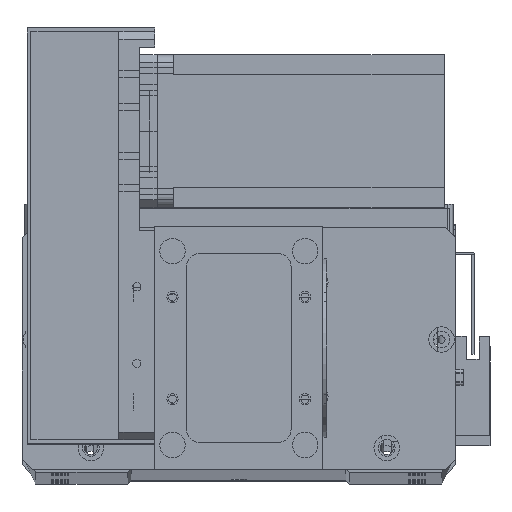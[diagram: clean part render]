
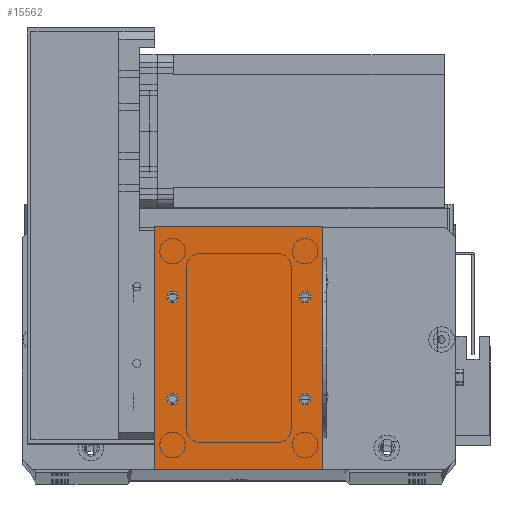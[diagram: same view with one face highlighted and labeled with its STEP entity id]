
A CAD part, top view. The second image highlights one B-rep face of the part: STEP entity #15562.
In plain terms, the highlighted planar face has unit normal (0, 0, 1).
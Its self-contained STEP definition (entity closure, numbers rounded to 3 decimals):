
#606 = DIRECTION ( 'NONE',  ( 0., 0., 1. ) ) ;
#1139 = LINE ( 'NONE', #1653, #7330 ) ;
#1398 = ORIENTED_EDGE ( 'NONE', *, *, #26550, .T. ) ;
#1653 = CARTESIAN_POINT ( 'NONE',  ( 0., 0., 2. ) ) ;
#2895 = AXIS2_PLACEMENT_3D ( 'NONE', #28897, #13147, #31559 ) ;
#2986 = EDGE_LOOP ( 'NONE', ( #22783, #12756 ) ) ;
#3214 = CARTESIAN_POINT ( 'NONE',  ( 0., 0., 2. ) ) ;
#3251 = FACE_BOUND ( 'NONE', #6437, .T. ) ;
#3397 = DIRECTION ( 'NONE',  ( -1., 0., 0. ) ) ;
#3508 = DIRECTION ( 'NONE',  ( 0., 0., 1. ) ) ;
#3669 = CARTESIAN_POINT ( 'NONE',  ( 56.75, 67.5, 2. ) ) ;
#3730 = ORIENTED_EDGE ( 'NONE', *, *, #10575, .F. ) ;
#3878 = ORIENTED_EDGE ( 'NONE', *, *, #26043, .F. ) ;
#4406 = CIRCLE ( 'NONE', #20729, 2.25 ) ;
#5197 = VECTOR ( 'NONE', #3397, 1000. ) ;
#5307 = EDGE_CURVE ( 'NONE', #29901, #8971, #32133, .T. ) ;
#5310 = AXIS2_PLACEMENT_3D ( 'NONE', #3214, #29609, #13860 ) ;
#5589 = CARTESIAN_POINT ( 'NONE',  ( 59., 67.5, 2. ) ) ;
#6334 = CIRCLE ( 'NONE', #2895, 2.25 ) ;
#6437 = EDGE_LOOP ( 'NONE', ( #33849, #15026 ) ) ;
#7245 = VERTEX_POINT ( 'NONE', #3669 ) ;
#7330 = VECTOR ( 'NONE', #9651, 1000. ) ;
#7938 = CARTESIAN_POINT ( 'NONE',  ( 7., 67.5, 2. ) ) ;
#8012 = VECTOR ( 'NONE', #24293, 1000. ) ;
#8244 = DIRECTION ( 'NONE',  ( 1., 0., 0. ) ) ;
#8971 = VERTEX_POINT ( 'NONE', #19518 ) ;
#9236 = CARTESIAN_POINT ( 'NONE',  ( 66., 0., 2. ) ) ;
#9471 = ORIENTED_EDGE ( 'NONE', *, *, #25773, .T. ) ;
#9475 = FACE_OUTER_BOUND ( 'NONE', #10811, .T. ) ;
#9651 = DIRECTION ( 'NONE',  ( 1., 0., 0. ) ) ;
#9693 = VERTEX_POINT ( 'NONE', #17287 ) ;
#10287 = FACE_BOUND ( 'NONE', #20868, .T. ) ;
#10297 = CARTESIAN_POINT ( 'NONE',  ( 7., 27.5, 2. ) ) ;
#10575 = EDGE_CURVE ( 'NONE', #20424, #21976, #32341, .T. ) ;
#10608 = DIRECTION ( 'NONE',  ( 1., 0., 0. ) ) ;
#10811 = EDGE_LOOP ( 'NONE', ( #14987, #9471, #13054, #1398 ) ) ;
#11130 = FACE_BOUND ( 'NONE', #18607, .T. ) ;
#11154 = VECTOR ( 'NONE', #27602, 1000. ) ;
#11181 = EDGE_CURVE ( 'NONE', #23141, #25673, #6334, .T. ) ;
#11940 = AXIS2_PLACEMENT_3D ( 'NONE', #5589, #24001, #8244 ) ;
#12636 = CARTESIAN_POINT ( 'NONE',  ( 61.25, 67.5, 2. ) ) ;
#12756 = ORIENTED_EDGE ( 'NONE', *, *, #11181, .F. ) ;
#12836 = DIRECTION ( 'NONE',  ( 0., 0., 1. ) ) ;
#12940 = DIRECTION ( 'NONE',  ( 1., 0., 0. ) ) ;
#13054 = ORIENTED_EDGE ( 'NONE', *, *, #29262, .T. ) ;
#13147 = DIRECTION ( 'NONE',  ( 0., 0., 1. ) ) ;
#13501 = CARTESIAN_POINT ( 'NONE',  ( 7., 27.5, 2. ) ) ;
#13860 = DIRECTION ( 'NONE',  ( -1., 0., 0. ) ) ;
#14161 = EDGE_CURVE ( 'NONE', #25673, #23141, #18958, .T. ) ;
#14571 = AXIS2_PLACEMENT_3D ( 'NONE', #7938, #26358, #10608 ) ;
#14987 = ORIENTED_EDGE ( 'NONE', *, *, #5307, .T. ) ;
#15015 = LINE ( 'NONE', #26908, #8012 ) ;
#15026 = ORIENTED_EDGE ( 'NONE', *, *, #29952, .F. ) ;
#15109 = AXIS2_PLACEMENT_3D ( 'NONE', #19284, #3508, #21918 ) ;
#15562 = ADVANCED_FACE ( 'NONE', ( #16467, #11130, #3251, #10287, #9475 ), #24326, .F. ) ;
#16115 = DIRECTION ( 'NONE',  ( 1., 0., 0. ) ) ;
#16409 = CARTESIAN_POINT ( 'NONE',  ( 59., 67.5, 2. ) ) ;
#16467 = FACE_BOUND ( 'NONE', #2986, .T. ) ;
#17287 = CARTESIAN_POINT ( 'NONE',  ( 66., 95., 2. ) ) ;
#17522 = CARTESIAN_POINT ( 'NONE',  ( 61.25, 27.5, 2. ) ) ;
#17696 = CARTESIAN_POINT ( 'NONE',  ( 4.75, 67.5, 2. ) ) ;
#18607 = EDGE_LOOP ( 'NONE', ( #3878, #25760 ) ) ;
#18958 = CIRCLE ( 'NONE', #14571, 2.25 ) ;
#19037 = DIRECTION ( 'NONE',  ( 1., 0., 0. ) ) ;
#19284 = CARTESIAN_POINT ( 'NONE',  ( 59., 27.5, 2. ) ) ;
#19518 = CARTESIAN_POINT ( 'NONE',  ( 0., 0., 2. ) ) ;
#19662 = CARTESIAN_POINT ( 'NONE',  ( 9.25, 67.5, 2. ) ) ;
#19953 = VERTEX_POINT ( 'NONE', #9236 ) ;
#20424 = VERTEX_POINT ( 'NONE', #27499 ) ;
#20729 = AXIS2_PLACEMENT_3D ( 'NONE', #16409, #606, #19037 ) ;
#20868 = EDGE_LOOP ( 'NONE', ( #3730, #33680 ) ) ;
#21340 = AXIS2_PLACEMENT_3D ( 'NONE', #13501, #31883, #16115 ) ;
#21918 = DIRECTION ( 'NONE',  ( 1., 0., 0. ) ) ;
#21976 = VERTEX_POINT ( 'NONE', #33556 ) ;
#22041 = EDGE_CURVE ( 'NONE', #32327, #29729, #30636, .T. ) ;
#22783 = ORIENTED_EDGE ( 'NONE', *, *, #14161, .F. ) ;
#23141 = VERTEX_POINT ( 'NONE', #17696 ) ;
#24001 = DIRECTION ( 'NONE',  ( 0., 0., 1. ) ) ;
#24293 = DIRECTION ( 'NONE',  ( 0., 1., 0. ) ) ;
#24326 = PLANE ( 'NONE',  #5310 ) ;
#24981 = CARTESIAN_POINT ( 'NONE',  ( 0., 0., 2. ) ) ;
#25673 = VERTEX_POINT ( 'NONE', #19662 ) ;
#25694 = CIRCLE ( 'NONE', #15109, 2.25 ) ;
#25760 = ORIENTED_EDGE ( 'NONE', *, *, #26093, .F. ) ;
#25773 = EDGE_CURVE ( 'NONE', #8971, #19953, #1139, .T. ) ;
#26043 = EDGE_CURVE ( 'NONE', #29610, #7245, #33260, .T. ) ;
#26093 = EDGE_CURVE ( 'NONE', #7245, #29610, #4406, .T. ) ;
#26238 = LINE ( 'NONE', #29661, #5197 ) ;
#26358 = DIRECTION ( 'NONE',  ( 0., 0., 1. ) ) ;
#26550 = EDGE_CURVE ( 'NONE', #9693, #29901, #26238, .T. ) ;
#26908 = CARTESIAN_POINT ( 'NONE',  ( 66., 0., 2. ) ) ;
#26991 = CARTESIAN_POINT ( 'NONE',  ( 0., 95., 2. ) ) ;
#27499 = CARTESIAN_POINT ( 'NONE',  ( 9.25, 27.5, 2. ) ) ;
#27602 = DIRECTION ( 'NONE',  ( 0., -1., 0. ) ) ;
#28608 = CARTESIAN_POINT ( 'NONE',  ( 59., 27.5, 2. ) ) ;
#28713 = DIRECTION ( 'NONE',  ( 0., 0., 1. ) ) ;
#28897 = CARTESIAN_POINT ( 'NONE',  ( 7., 67.5, 2. ) ) ;
#29262 = EDGE_CURVE ( 'NONE', #19953, #9693, #15015, .T. ) ;
#29609 = DIRECTION ( 'NONE',  ( 0., 0., -1. ) ) ;
#29610 = VERTEX_POINT ( 'NONE', #12636 ) ;
#29661 = CARTESIAN_POINT ( 'NONE',  ( 0., 95., 2. ) ) ;
#29729 = VERTEX_POINT ( 'NONE', #31499 ) ;
#29901 = VERTEX_POINT ( 'NONE', #26991 ) ;
#29952 = EDGE_CURVE ( 'NONE', #29729, #32327, #25694, .T. ) ;
#30636 = CIRCLE ( 'NONE', #31239, 2.25 ) ;
#31239 = AXIS2_PLACEMENT_3D ( 'NONE', #28608, #12836, #31258 ) ;
#31258 = DIRECTION ( 'NONE',  ( 1., 0., 0. ) ) ;
#31361 = AXIS2_PLACEMENT_3D ( 'NONE', #10297, #28713, #12940 ) ;
#31499 = CARTESIAN_POINT ( 'NONE',  ( 56.75, 27.5, 2. ) ) ;
#31559 = DIRECTION ( 'NONE',  ( 1., 0., 0. ) ) ;
#31719 = CIRCLE ( 'NONE', #21340, 2.25 ) ;
#31883 = DIRECTION ( 'NONE',  ( 0., 0., 1. ) ) ;
#32133 = LINE ( 'NONE', #24981, #11154 ) ;
#32327 = VERTEX_POINT ( 'NONE', #17522 ) ;
#32341 = CIRCLE ( 'NONE', #31361, 2.25 ) ;
#32596 = EDGE_CURVE ( 'NONE', #21976, #20424, #31719, .T. ) ;
#33260 = CIRCLE ( 'NONE', #11940, 2.25 ) ;
#33556 = CARTESIAN_POINT ( 'NONE',  ( 4.75, 27.5, 2. ) ) ;
#33680 = ORIENTED_EDGE ( 'NONE', *, *, #32596, .F. ) ;
#33849 = ORIENTED_EDGE ( 'NONE', *, *, #22041, .F. ) ;
